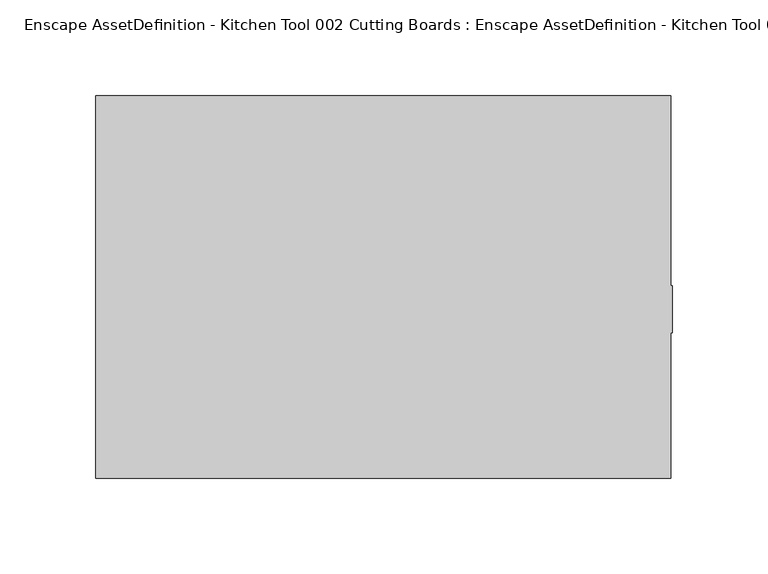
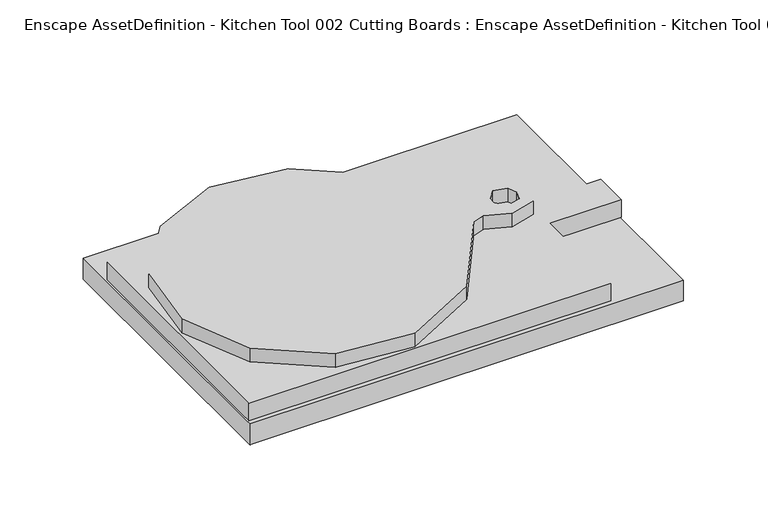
"""IFC4 building model written with IfcOpenShell, lengths in millimetres: geographic element geometry, Enscape AssetDefinition - Kitchen Tool 002 Cutting Boards : Enscape AssetDefinition - Kitchen Tool 002 Cutting Boards."""

import ifcopenshell
import ifcopenshell.guid

model = None  # the IFC model being written
_history = None  # IfcOwnerHistory: only IFC2X3 demands one
_inside = {}  # id of a spatial element -> (the spatial element, [elements in it])
_under = {}  # id of a project, library or spatial element -> (it, [spatial elements below it])
_declared = {}  # id of a project -> (the project, [libraries it declares])
_typed = {}  # id of a type object -> (the type object, [elements of that type])
_made_of = {}  # id of a material, layer set ... -> (it, [elements and type objects made of it])


def new_model(schema):
    """Start an empty IFC model of exactly this schema.

    Asked for "IFC4X3", IfcOpenShell would pick the latest addendum, in which some entities
    have other attributes; the version numbers below select the first issue.
    IFC2X3 requires an IfcOwnerHistory on every rooted entity: one is made here for all.
    """
    global model, _history
    if schema == "IFC4X3":
        model = ifcopenshell.file(schema_version=(4, 3, 0, 0))
    else:
        model = ifcopenshell.file(schema=schema)
    _inside.clear()
    _under.clear()
    _declared.clear()
    _typed.clear()
    _made_of.clear()
    _history = None
    if model.schema == "IFC2X3":
        org = make("IfcOrganization", Name="unknown")
        user = make(
            "IfcPersonAndOrganization",
            ThePerson=make("IfcPerson", FamilyName="unknown"),
            TheOrganization=org,
        )
        app = make(
            "IfcApplication",
            ApplicationDeveloper=org,
            Version="unknown",
            ApplicationFullName="unknown",
            ApplicationIdentifier="unknown",
        )
        _history = make(
            "IfcOwnerHistory",
            OwningUser=user,
            OwningApplication=app,
            ChangeAction="ADDED",
            CreationDate=0,
        )
    return model


def make(cls, **values):
    """One entity of the class cls with the attributes given. An attribute that is None is left unset."""
    return model.create_entity(
        cls, **{name: value for name, value in values.items() if value is not None}
    )


def rooted(cls, **values):
    """An entity with a GlobalId (a new one), such as an element, a storey or a relation."""
    return make(cls, GlobalId=ifcopenshell.guid.new(), OwnerHistory=_history, **values)


def si_unit(unit_type, name, prefix=None):
    """IfcSIUnit, for example si_unit("LENGTHUNIT", "METRE", prefix="MILLI")."""
    return make("IfcSIUnit", UnitType=unit_type, Prefix=prefix, Name=name)


def assignment(units):
    """IfcUnitAssignment: the units of a project."""
    return None if units is None else make("IfcUnitAssignment", Units=units)


def point(xyz):
    """IfcCartesianPoint."""
    return None if xyz is None else make("IfcCartesianPoint", Coordinates=xyz)


def direction(xyz):
    """IfcDirection."""
    return None if xyz is None else make("IfcDirection", DirectionRatios=xyz)


def frame(location, z_axis=None, x_axis=None):
    """IfcAxis2Placement3D, a coordinate frame: its origin and axes. An axis left out is left unset."""
    return make(
        "IfcAxis2Placement3D",
        Location=point(location),
        Axis=direction(z_axis),
        RefDirection=direction(x_axis),
    )


def origin():
    """The frame at (0, 0, 0) with its axes left unset."""
    return frame((0.0, 0.0, 0.0))


def place(relative_to, where):
    """IfcLocalPlacement: puts the frame where relative to a parent placement (None: the world)."""
    return make(
        "IfcLocalPlacement", PlacementRelTo=relative_to, RelativePlacement=where
    )


def context(
    kind, dimensions, precision=None, world=None, true_north=None, identifier=None
):
    """IfcGeometricRepresentationContext, for example the 3D "Model" context."""
    return make(
        "IfcGeometricRepresentationContext",
        ContextIdentifier=identifier,
        ContextType=kind,
        CoordinateSpaceDimension=dimensions,
        Precision=precision,
        WorldCoordinateSystem=world,
        TrueNorth=true_north,
    )


def project(units=None, contexts=None):
    """IfcProject with its units and contexts."""
    return rooted(
        "IfcProject",
        Name="project",
        RepresentationContexts=contexts,
        UnitsInContext=assignment(units),
    )


def spatial(cls, under=None, at=None, **own):
    """A site, building, storey or space (cls), placed at a placement, below another one or the project."""
    s = rooted(cls, ObjectPlacement=at, **own)
    if under is not None:
        _under.setdefault(under.id(), (under, []))[1].append(s)
    return s


def point_list(points):
    """IfcCartesianPointList2D or 3D."""
    cls = (
        "IfcCartesianPointList2D" if len(points[0]) == 2 else "IfcCartesianPointList3D"
    )
    return make(cls, CoordList=points)


def triangles(points, corners, closed=None, point_numbers=None):
    """IfcTriangulatedFaceSet: each triangle names its three corners, points numbered from 1."""
    return make(
        "IfcTriangulatedFaceSet",
        Coordinates=point_list(points),
        Closed=closed,
        CoordIndex=corners,
        PnIndex=point_numbers,
    )


def shape(context_of_items, identifier, shape_type, items):
    """IfcShapeRepresentation: the items that make up one representation, for example the "Body"."""
    return make(
        "IfcShapeRepresentation",
        ContextOfItems=context_of_items,
        RepresentationIdentifier=identifier,
        RepresentationType=shape_type,
        Items=items,
    )


def source(mapping_origin, context_of_items, identifier, shape_type, items):
    """IfcRepresentationMap: a shape defined once, which mapped items show again and again."""
    return make(
        "IfcRepresentationMap",
        MappingOrigin=mapping_origin,
        MappedRepresentation=shape(context_of_items, identifier, shape_type, items),
    )


def transform(
    local_origin,
    x_axis=None,
    y_axis=None,
    z_axis=None,
    scale=None,
    scale2=None,
    scale3=None,
    uniform=True,
):
    """IfcCartesianTransformationOperator3D, or its non-uniform kind. x_axis, y_axis, z_axis: its Axis1, 2, 3."""
    if uniform:
        return make(
            "IfcCartesianTransformationOperator3D",
            Axis1=direction(x_axis),
            Axis2=direction(y_axis),
            LocalOrigin=point(local_origin),
            Scale=scale,
            Axis3=direction(z_axis),
        )
    return make(
        "IfcCartesianTransformationOperator3DnonUniform",
        Axis1=direction(x_axis),
        Axis2=direction(y_axis),
        LocalOrigin=point(local_origin),
        Scale=scale,
        Axis3=direction(z_axis),
        Scale2=scale2,
        Scale3=scale3,
    )


def mapped(mapping_source, mapping_target):
    """IfcMappedItem: shows the shape of a source again, moved by a transform."""
    return make(
        "IfcMappedItem", MappingSource=mapping_source, MappingTarget=mapping_target
    )


def made_of(thing, what):
    """Note that an element or type object is made of a material, layer set ...; save() writes the relation."""
    if what is not None:
        _made_of.setdefault(what.id(), (what, []))[1].append(thing)
    return thing


def element(
    cls,
    number,
    at=None,
    inside=None,
    cuts=None,
    type_object=None,
    material=None,
    context=None,
    identifier="Body",
    shape_type=None,
    held_by="IfcProductDefinitionShape",
    body=None,
    shapes=None,
    **own,
):
    """One element of the class cls, such as IfcWall. Its Tag is "e" and its number.

    at: its placement. inside: the storey or other place that contains it. cuts: it is an
    opening in that element (IfcRelVoidsElement). A single representation is given by context,
    identifier, shape_type and body (its items); several are given by shapes. held_by: the class
    of the entity that holds the representations. save() writes the other relations.
    """
    e = rooted(cls, Tag="e%d" % number, ObjectPlacement=at, **own)
    if body is not None:
        shapes = [shape(context, identifier, shape_type, body)]
    if shapes is not None:
        e.Representation = make(held_by, Representations=shapes)
    if inside is not None:
        _inside.setdefault(inside.id(), (inside, []))[1].append(e)
    if cuts is not None:
        rooted(
            "IfcRelVoidsElement", RelatingBuildingElement=cuts, RelatedOpeningElement=e
        )
    if type_object is not None:
        _typed.setdefault(type_object.id(), (type_object, []))[1].append(e)
    return made_of(e, material)


def aggregate(whole, parts):
    """IfcRelAggregates: a whole, such as a stair, and the parts it consists of."""
    return rooted("IfcRelAggregates", RelatingObject=whole, RelatedObjects=parts)


def save(model, path):
    """Write the relations noted so far, then the file.

    IfcRelAggregates (storeys below a building ...), IfcRelContainedInSpatialStructure (elements
    in a storey), IfcRelDefinesByType, IfcRelAssociatesMaterial and IfcRelDeclares: one each for
    every whole, place, type object, material and project.
    """
    for whole, parts in _under.values():
        aggregate(whole, parts)
    for where, things in _inside.values():
        rooted(
            "IfcRelContainedInSpatialStructure",
            RelatedElements=things,
            RelatingStructure=where,
        )
    for kind, things in _typed.values():
        rooted("IfcRelDefinesByType", RelatedObjects=things, RelatingType=kind)
    for what, things in _made_of.values():
        rooted("IfcRelAssociatesMaterial", RelatedObjects=things, RelatingMaterial=what)
    for by, libraries in _declared.values():
        rooted("IfcRelDeclares", RelatingContext=by, RelatedDefinitions=libraries)
    model.write(path)


def enscape_assetdefinition_kitchen_tool_002_cutting_boards_67aff8ed(model_context):
    return source(origin(), model_context, "Body", "Tessellation", [
        triangles([(-16.9079989, -102.3860016, -0.117), (-16.9079989, 97.4170007, -0.117), (-16.9079989, 97.4170007, 15.1049998), (283.4850038, 97.4170007, 15.1049998), (283.4850038, -102.3860016, -0.117), (283.4850038, -102.3860016, 15.1049998), (283.4850038, 97.4170007, -0.117), (-16.9079989, -102.3860016, 15.1049998), (234.7809999, -1.918, 27.7859993), (284.2870079, -1.918, 27.7859993), (234.7809999, 70.802001, 14.9939998), (-15.7130012, 70.802001, 27.7859993), (234.7809999, 70.802001, 27.7859993), (234.7809999, -1.918, 14.9939998), (-15.7130012, 70.802001, 14.9939998), (234.7809999, -26.4769994, 14.9939998), (284.2870079, -1.918, 14.9939998), (284.2870079, -26.4769994, 27.7859993), (284.2870079, -26.4769994, 14.9939998), (234.7809999, -26.4769994, 27.7859993), (234.7809999, -99.1979967, 14.9939998), (-15.7130012, -99.1979967, 14.9939998), (234.7809999, -99.1979967, 27.7859993), (-15.7130012, -99.1979967, 27.7859993), (188.618011, -14.9929995, 37.7859998), (99.9270038, -97.8479973, 37.7859998), (-7.2840002, 35.5219983, 37.7859998), (-13.6219997, -15.1359993, 37.7859998), (6.3780003, -62.1219985, 37.7859998), (151.9390089, -70.3700052, 37.7859998), (99.9270038, -97.8479973, 27.7859993), (47.7749999, -92.6880016, 27.7859993), (47.7749999, -92.6880016, 37.7859998), (6.3780003, -62.1219985, 27.7859993), (151.9390089, -70.3700052, 27.7859993), (-13.6219997, -15.1359993, 27.7859993), (-7.2840002, 35.5219983, 27.7859993), (174.6080013, 35.1100004, 27.7859993), (188.618011, -14.9929995, 27.7859993), (188.3290024, 12.9089992, 27.7859993), (174.6080013, 35.1100004, 37.7859998), (150.4209965, 66.7449994, 27.7859993), (196.9349997, -11.8319994, 37.7859998), (188.3290024, 12.9089992, 37.7859998), (196.6829983, 9.7780005, 27.7859993), (196.6829983, 9.7780005, 37.7859998), (209.3590051, 1.346, 37.7859998), (209.3989918, -3.2589998, 37.7859998), (215.3960094, -9.9080003, 37.7859998), (209.3989918, -3.2589998, 27.7859993), (196.9349997, -11.8319994, 27.7859993), (224.4029996, -7.3709998, 27.7859993), (215.3960094, -9.9080003, 27.7859993), (230.8130008, -13.5700009, 27.7859993), (213.3810162, -18.5560008, 37.7859998), (213.3810162, -18.5560008, 27.7859993), (209.3590051, 1.346, 27.7859993), (212.7919896, 16.4659996, 37.7859998), (230.3819952, 12.0679998, 27.7859993), (212.7919896, 16.4659996, 27.7859993), (230.3819952, 12.0679998, 37.7859998), (235.2899986, -0.672, 27.7859993), (224.1840086, 5.6579997, 27.7859993), (226.6780061, -0.817, 27.7859993), (226.6780061, -0.817, 37.7859998), (224.4029996, -7.3709998, 37.7859998), (235.2899986, -0.672, 37.7859998), (224.1840086, 5.6579997, 37.7859998), (230.8130008, -13.5700009, 37.7859998), (215.0019928, 7.8880002, 37.7859998), (215.0019928, 7.8880002, 27.7859993), (150.4209965, 66.7449994, 37.7859998), (120.0080001, 88.8580028, 27.7859993), (69.5639997, 96.0200021, 37.7859998), (120.0080001, 88.8580028, 37.7859998), (69.5639997, 96.0200021, 27.7859993), (23.7300014, 75.4660014, 27.7859993), (23.7300014, 75.4660014, 37.7859998)], [[73, 42, 77], [77, 76, 73], [78, 74, 76], [27, 78, 77], [78, 76, 77], [75, 73, 76], [75, 74, 78], [75, 76, 74], [72, 42, 73], [78, 27, 72], [72, 73, 75], [72, 75, 78], [68, 70, 71], [70, 57, 71], [68, 71, 63], [67, 69, 54], [65, 68, 63], [68, 65, 67], [66, 69, 67], [66, 55, 69], [66, 67, 65], [66, 65, 64], [65, 63, 64], [66, 64, 52], [62, 54, 52], [67, 54, 62], [63, 62, 64], [62, 52, 64], [63, 59, 62], [61, 67, 62], [61, 62, 59], [68, 67, 61], [68, 61, 58], [68, 58, 70], [61, 59, 60], [60, 71, 57], [60, 59, 63], [61, 60, 58], [60, 63, 71], [58, 60, 45], [60, 57, 45], [51, 45, 57], [69, 55, 56], [52, 54, 56], [69, 56, 54], [55, 51, 56], [66, 52, 53], [52, 56, 53], [50, 53, 56], [50, 56, 51], [51, 57, 50], [66, 49, 55], [49, 53, 50], [66, 53, 49], [48, 50, 57], [49, 50, 48], [48, 55, 49], [70, 47, 57], [48, 57, 47], [58, 47, 70], [55, 43, 51], [48, 43, 55], [47, 43, 48], [58, 46, 47], [47, 46, 43], [58, 45, 46], [44, 46, 45], [46, 44, 25], [25, 51, 43], [46, 25, 43], [25, 44, 41], [27, 41, 72], [41, 42, 72], [41, 44, 40], [44, 45, 40], [25, 39, 51], [39, 40, 45], [39, 45, 51], [41, 38, 42], [41, 40, 38], [39, 38, 40], [42, 38, 37], [27, 77, 37], [77, 42, 37], [39, 35, 38], [38, 35, 37], [32, 34, 35], [27, 37, 36], [37, 35, 36], [34, 36, 35], [27, 36, 28], [29, 28, 36], [29, 36, 34], [33, 29, 34], [33, 34, 32], [26, 33, 32], [35, 31, 32], [26, 32, 31], [28, 29, 30], [27, 28, 30], [30, 41, 27], [33, 26, 30], [30, 26, 31], [30, 35, 39], [25, 41, 30], [29, 33, 30], [30, 31, 35], [30, 39, 25], [23, 20, 24], [24, 21, 23], [24, 22, 21], [23, 21, 16], [23, 16, 20], [21, 22, 16], [18, 20, 16], [18, 16, 19], [18, 19, 17], [18, 17, 10], [10, 17, 14], [14, 17, 19], [14, 19, 16], [22, 14, 16], [22, 15, 14], [24, 15, 22], [14, 15, 11], [24, 12, 15], [13, 11, 15], [13, 15, 12], [9, 14, 11], [9, 20, 18], [9, 12, 24], [9, 11, 13], [10, 14, 9], [9, 18, 10], [9, 13, 12], [9, 24, 20], [1, 8, 2], [5, 1, 2], [2, 7, 5], [5, 7, 4], [1, 5, 6], [2, 3, 4], [3, 8, 6], [8, 3, 2], [5, 4, 6], [1, 6, 8], [2, 4, 7], [3, 6, 4]]),
    ])


if __name__ == "__main__":
    model = new_model("IFC4")
    model_context = context("Model", 3, world=origin())
    ifc_project = project(units=[si_unit("LENGTHUNIT", "METRE", prefix="MILLI")], contexts=[model_context])
    site = spatial("IfcSite", under=ifc_project)
    building = spatial("IfcBuilding", under=site)
    placement = place(None, origin())
    enscape_assetdefinition_kitchen_tool_002_cutting_boards_shape = enscape_assetdefinition_kitchen_tool_002_cutting_boards_67aff8ed(model_context)
    element("IfcGeographicElement", 1, ObjectType="Enscape AssetDefinition - Kitchen Tool 002 Cutting Boards : Enscape AssetDefinition - Kitchen Tool 002 Cutting Boards", at=placement, inside=building, context=model_context, shape_type="MappedRepresentation", body=[
        mapped(enscape_assetdefinition_kitchen_tool_002_cutting_boards_shape, transform((0.0, 0.0, 0.0), x_axis=(1.0, 0.0, 0.0), y_axis=(0.0, 1.0, 0.0), z_axis=(0.0, 0.0, 1.0))),
    ])
    save(model, "model.ifc")
